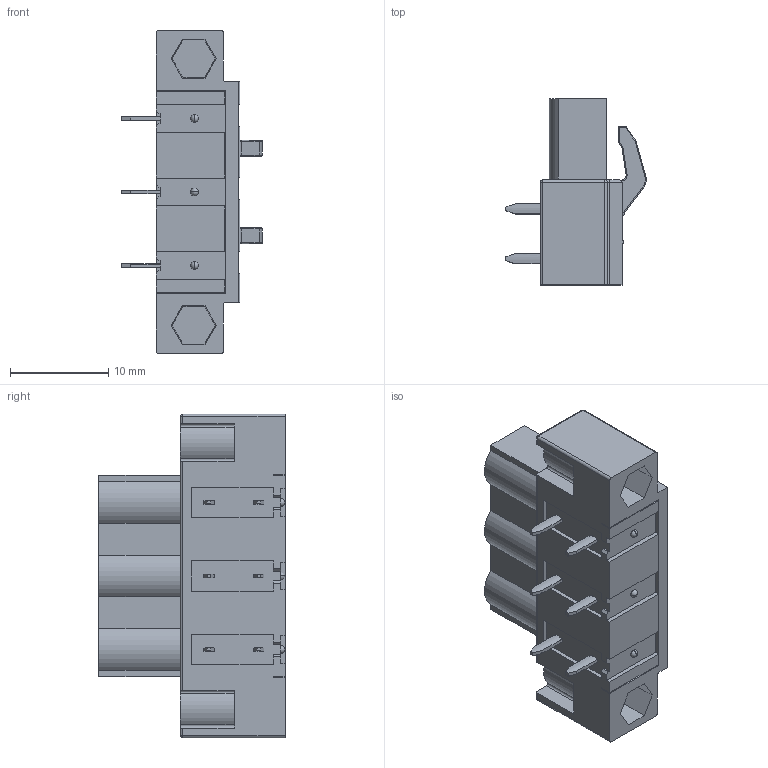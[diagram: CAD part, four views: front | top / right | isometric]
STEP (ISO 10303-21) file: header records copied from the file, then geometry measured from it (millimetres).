
FILE_DESCRIPTION((''),'2;1');
FILE_NAME('V703A2X10000G','2019-04-19T',('zhenbing.lai'),(''),'CREO PARAMETRIC BY PTC INC, 2016260','CREO PARAMETRIC BY PTC INC, 2016260','');
FILE_SCHEMA(('CONFIG_CONTROL_DESIGN'));
Length unit declared in the file: millimetre
Products named in the file (1): V703A2X10000G
Bounding box: 14.31 x 19 x 33 mm (x, y, z)
Volume: 3383.5 mm3; surface area: 2394.3 mm2
Topology: 1 solids, 1 shells, 443 faces, 1176 edges, 749 vertices
Faces by surface type: plane 234, cylinder 134, bspline 28, torus 27, sphere 10, cone 10
Entity records: 14293 total; most frequent: CARTESIAN_POINT 3288, ORIENTED_EDGE 2332, DIRECTION 2259, EDGE_CURVE 1166, AXIS2_PLACEMENT_3D 764, VERTEX_POINT 749, VECTOR 731, LINE 731
